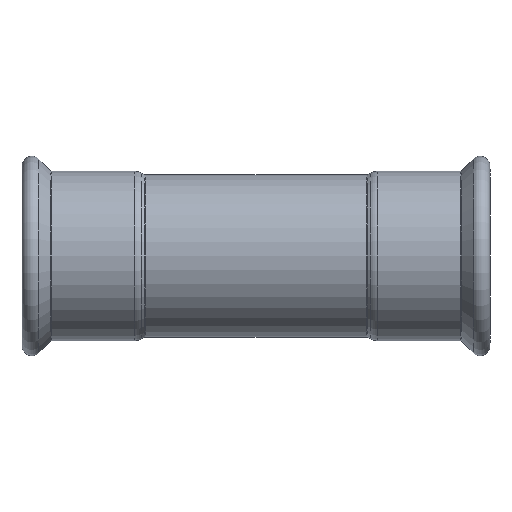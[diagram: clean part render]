
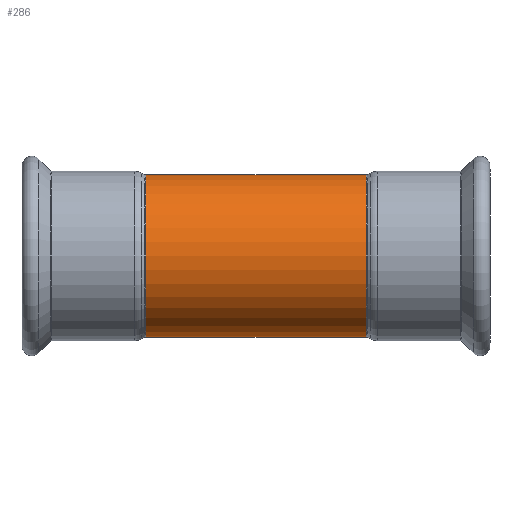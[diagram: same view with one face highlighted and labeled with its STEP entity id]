
A CAD part, front view. The second image highlights one B-rep face of the part: STEP entity #286.
In plain terms, the highlighted cylindrical face has radius 53.5 mm (diameter 107 mm), a partial arc.
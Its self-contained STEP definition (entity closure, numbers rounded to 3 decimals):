
#135 = LINE ( 'NONE', #1524, #3356 ) ;
#236 = CARTESIAN_POINT ( 'NONE',  ( 72.868, 0., -53.5 ) ) ;
#239 = EDGE_CURVE ( 'NONE', #1247, #748, #135, .T. ) ;
#285 = CARTESIAN_POINT ( 'NONE',  ( 27.146, 0., 53.5 ) ) ;
#286 = ADVANCED_FACE ( 'NONE', ( #2881 ), #4479, .T. ) ;
#574 = VECTOR ( 'NONE', #3751, 1000. ) ;
#635 = DIRECTION ( 'NONE',  ( 0., 0., 1. ) ) ;
#748 = VERTEX_POINT ( 'NONE', #3182 ) ;
#918 = ORIENTED_EDGE ( 'NONE', *, *, #2302, .T. ) ;
#969 = CARTESIAN_POINT ( 'NONE',  ( -72.868, 0., 0. ) ) ;
#1161 = CIRCLE ( 'NONE', #2617, 53.5 ) ;
#1172 = EDGE_CURVE ( 'NONE', #1247, #2365, #2690, .T. ) ;
#1247 = VERTEX_POINT ( 'NONE', #236 ) ;
#1411 = VERTEX_POINT ( 'NONE', #3444 ) ;
#1524 = CARTESIAN_POINT ( 'NONE',  ( 27.146, 0., -53.5 ) ) ;
#1537 = DIRECTION ( 'NONE',  ( -1., 0., 0. ) ) ;
#2002 = CARTESIAN_POINT ( 'NONE',  ( 72.868, 0., 53.5 ) ) ;
#2065 = ORIENTED_EDGE ( 'NONE', *, *, #2282, .F. ) ;
#2068 = AXIS2_PLACEMENT_3D ( 'NONE', #2587, #2610, #3651 ) ;
#2126 = DIRECTION ( 'NONE',  ( -1., 0., 0. ) ) ;
#2157 = ORIENTED_EDGE ( 'NONE', *, *, #1172, .T. ) ;
#2282 = EDGE_CURVE ( 'NONE', #748, #1411, #1161, .T. ) ;
#2302 = EDGE_CURVE ( 'NONE', #2365, #1411, #4343, .T. ) ;
#2365 = VERTEX_POINT ( 'NONE', #2002 ) ;
#2587 = CARTESIAN_POINT ( 'NONE',  ( 27.146, 0., 0. ) ) ;
#2610 = DIRECTION ( 'NONE',  ( -1., 0., 0. ) ) ;
#2617 = AXIS2_PLACEMENT_3D ( 'NONE', #969, #4077, #635 ) ;
#2690 = CIRCLE ( 'NONE', #2903, 53.5 ) ;
#2810 = CARTESIAN_POINT ( 'NONE',  ( 72.868, 0., 0. ) ) ;
#2881 = FACE_OUTER_BOUND ( 'NONE', #2979, .T. ) ;
#2903 = AXIS2_PLACEMENT_3D ( 'NONE', #2810, #2126, #3542 ) ;
#2979 = EDGE_LOOP ( 'NONE', ( #2990, #2157, #918, #2065 ) ) ;
#2990 = ORIENTED_EDGE ( 'NONE', *, *, #239, .F. ) ;
#3182 = CARTESIAN_POINT ( 'NONE',  ( -72.868, 0., -53.5 ) ) ;
#3356 = VECTOR ( 'NONE', #1537, 1000. ) ;
#3444 = CARTESIAN_POINT ( 'NONE',  ( -72.868, 0., 53.5 ) ) ;
#3542 = DIRECTION ( 'NONE',  ( 0., 0., 1. ) ) ;
#3651 = DIRECTION ( 'NONE',  ( 0., 0., 1. ) ) ;
#3751 = DIRECTION ( 'NONE',  ( -1., 0., 0. ) ) ;
#4077 = DIRECTION ( 'NONE',  ( -1., 0., 0. ) ) ;
#4343 = LINE ( 'NONE', #285, #574 ) ;
#4479 = CYLINDRICAL_SURFACE ( 'NONE', #2068, 53.5 ) ;
